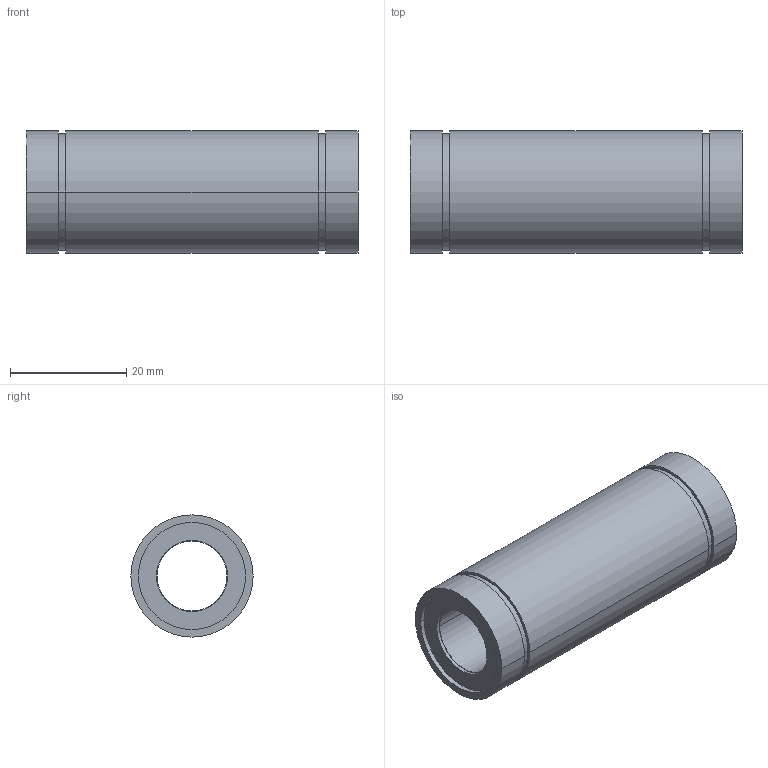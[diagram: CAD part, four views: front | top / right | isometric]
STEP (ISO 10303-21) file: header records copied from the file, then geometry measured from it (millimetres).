
FILE_DESCRIPTION(('FreeCAD Model'),'2;1');
FILE_NAME('Open CASCADE Shape Model','2021-05-03T15:27:45',('Author'),( ''),'Open CASCADE STEP processor 7.5','FreeCAD','Unknown');
FILE_SCHEMA(('AUTOMOTIVE_DESIGN { 1 0 10303 214 1 1 1 1 }'));
Length unit declared in the file: millimetre
Products named in the file (4): ball_bearing_lm-12luu__1; SOLID; SOLID001; SOLID002
Assembly tree (3 placements, depth 2):
  ball_bearing_lm-12luu__1
    SOLID
    SOLID001
    SOLID002
Bounding box: 57 x 21 x 21 mm (x, y, z)
Volume: 12958.9 mm3; surface area: 7559.4 mm2
Topology: 3 solids, 3 shells, 42 faces, 84 edges, 56 vertices
Faces by surface type: cylinder 28, plane 14
Entity records: 2423 total; most frequent: CARTESIAN_POINT 558, DIRECTION 366, ORIENTED_EDGE 168, PCURVE 168, DEFINITIONAL_REPRESENTATION 168, LINE 140, VECTOR 140, AXIS2_PLACEMENT_3D 102
